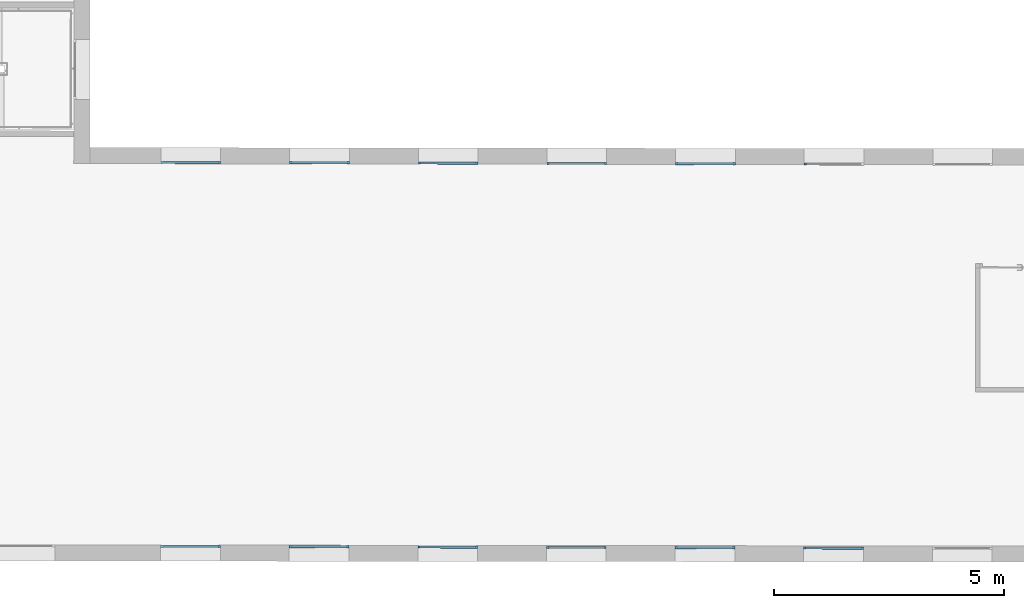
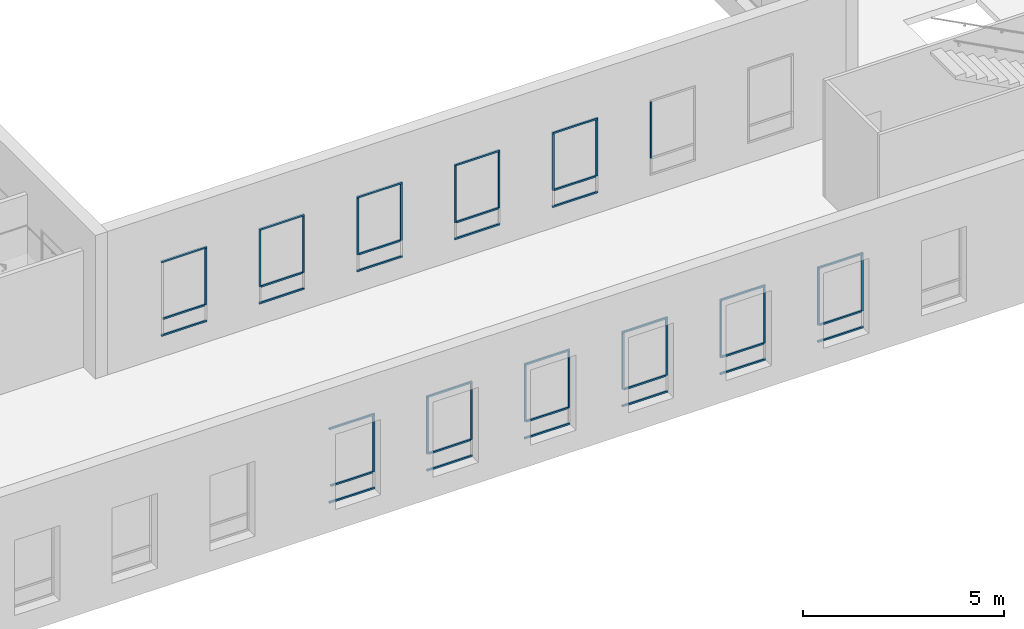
# One storey, part 3 of 35: 54 members, 12 elements without a shape of their own.
"""IFC2X3 building model written with IfcOpenShell, lengths in metres."""

import ifcopenshell
import ifcopenshell.guid

model = None  # the IFC model being written
_history = None  # IfcOwnerHistory: only IFC2X3 demands one
_inside = {}  # id of a spatial element -> (the spatial element, [elements in it])
_under = {}  # id of a project, library or spatial element -> (it, [spatial elements below it])
_declared = {}  # id of a project -> (the project, [libraries it declares])
_typed = {}  # id of a type object -> (the type object, [elements of that type])
_made_of = {}  # id of a material, layer set ... -> (it, [elements and type objects made of it])


def new_model(schema):
    """Start an empty IFC model of exactly this schema.

    Asked for "IFC4X3", IfcOpenShell would pick the latest addendum, in which some entities
    have other attributes; the version numbers below select the first issue.
    IFC2X3 requires an IfcOwnerHistory on every rooted entity: one is made here for all.
    """
    global model, _history
    if schema == "IFC4X3":
        model = ifcopenshell.file(schema_version=(4, 3, 0, 0))
    else:
        model = ifcopenshell.file(schema=schema)
    _inside.clear()
    _under.clear()
    _declared.clear()
    _typed.clear()
    _made_of.clear()
    _history = None
    if model.schema == "IFC2X3":
        org = make("IfcOrganization", Name="unknown")
        user = make(
            "IfcPersonAndOrganization",
            ThePerson=make("IfcPerson", FamilyName="unknown"),
            TheOrganization=org,
        )
        app = make(
            "IfcApplication",
            ApplicationDeveloper=org,
            Version="unknown",
            ApplicationFullName="unknown",
            ApplicationIdentifier="unknown",
        )
        _history = make(
            "IfcOwnerHistory",
            OwningUser=user,
            OwningApplication=app,
            ChangeAction="ADDED",
            CreationDate=0,
        )
    return model


def make(cls, **values):
    """One entity of the class cls with the attributes given. An attribute that is None is left unset."""
    return model.create_entity(
        cls, **{name: value for name, value in values.items() if value is not None}
    )


def entity(cls, *values):
    """Any entity or typed value of the class cls, its attributes in the order of the schema. None: left unset."""
    e = model.create_entity(cls)
    for i, value in enumerate(values):
        if value is not None:
            e[i] = value
    return e


def rooted(cls, **values):
    """An entity with a GlobalId (a new one), such as an element, a storey or a relation."""
    return make(cls, GlobalId=ifcopenshell.guid.new(), OwnerHistory=_history, **values)


def si_unit(unit_type, name, prefix=None):
    """IfcSIUnit, for example si_unit("LENGTHUNIT", "METRE", prefix="MILLI")."""
    return make("IfcSIUnit", UnitType=unit_type, Prefix=prefix, Name=name)


def converted_unit(unit_type, name, factor, base, dimensions=None, offset=None):
    """IfcConversionBasedUnit, such as the inch: factor (a typed value) times the base unit."""
    return make(
        "IfcConversionBasedUnit"
        if offset is None
        else "IfcConversionBasedUnitWithOffset",
        ConversionOffset=offset,
        Dimensions=None
        if dimensions is None
        else entity("IfcDimensionalExponents", *dimensions),
        UnitType=unit_type,
        Name=name,
        ConversionFactor=make(
            "IfcMeasureWithUnit", ValueComponent=factor, UnitComponent=base
        ),
    )


def derived_unit(unit_type, elements):
    """IfcDerivedUnit: a product of units, each with its exponent."""
    return make(
        "IfcDerivedUnit",
        Elements=[
            make("IfcDerivedUnitElement", Unit=unit, Exponent=power)
            for unit, power in elements
        ],
        UnitType=unit_type,
    )


def assignment(units):
    """IfcUnitAssignment: the units of a project."""
    return None if units is None else make("IfcUnitAssignment", Units=units)


def point(xyz):
    """IfcCartesianPoint."""
    return None if xyz is None else make("IfcCartesianPoint", Coordinates=xyz)


def direction(xyz):
    """IfcDirection."""
    return None if xyz is None else make("IfcDirection", DirectionRatios=xyz)


def frame(location, z_axis=None, x_axis=None):
    """IfcAxis2Placement3D, a coordinate frame: its origin and axes. An axis left out is left unset."""
    return make(
        "IfcAxis2Placement3D",
        Location=point(location),
        Axis=direction(z_axis),
        RefDirection=direction(x_axis),
    )


def frame_2d(location, x_axis=None):
    """IfcAxis2Placement2D, a coordinate frame in the plane: its origin and x axis."""
    return make(
        "IfcAxis2Placement2D", Location=point(location), RefDirection=direction(x_axis)
    )


def origin():
    """The frame at (0, 0, 0) with its axes left unset."""
    return frame((0.0, 0.0, 0.0))


def origin_2d_with_axis():
    """The frame at (0, 0) in the plane with the x axis (1, 0) written out."""
    return frame_2d((0.0, 0.0), x_axis=(1.0, 0.0))


def place(relative_to, where):
    """IfcLocalPlacement: puts the frame where relative to a parent placement (None: the world)."""
    return make(
        "IfcLocalPlacement", PlacementRelTo=relative_to, RelativePlacement=where
    )


def context(
    kind, dimensions, precision=None, world=None, true_north=None, identifier=None
):
    """IfcGeometricRepresentationContext, for example the 3D "Model" context."""
    return make(
        "IfcGeometricRepresentationContext",
        ContextIdentifier=identifier,
        ContextType=kind,
        CoordinateSpaceDimension=dimensions,
        Precision=precision,
        WorldCoordinateSystem=world,
        TrueNorth=true_north,
    )


def subcontext(parent, identifier, kind, view, scale=None):
    """IfcGeometricRepresentationSubContext, for example "Body" below "Model"."""
    return make(
        "IfcGeometricRepresentationSubContext",
        ContextIdentifier=identifier,
        ContextType=kind,
        ParentContext=parent,
        TargetScale=scale,
        TargetView=view,
    )


def project(units=None, contexts=None):
    """IfcProject with its units and contexts."""
    return rooted(
        "IfcProject",
        Name="project",
        RepresentationContexts=contexts,
        UnitsInContext=assignment(units),
    )


def spatial(cls, under=None, at=None, **own):
    """A site, building, storey or space (cls), placed at a placement, below another one or the project."""
    s = rooted(cls, ObjectPlacement=at, **own)
    if under is not None:
        _under.setdefault(under.id(), (under, []))[1].append(s)
    return s


def profile(cls, at=None, kind="AREA", **sizes):
    """A parametric profile (cls). Its sizes go by their IFC names, for example OverallWidth=200.0."""
    return make(cls, ProfileType=kind, Position=at, **sizes)


def rectangle(**sizes):
    """IfcRectangleProfileDef."""
    return profile("IfcRectangleProfileDef", **sizes)


def extrude(swept, where, along, depth):
    """IfcExtrudedAreaSolid: the profile swept, set in the frame where, extruded along a direction by depth."""
    return make(
        "IfcExtrudedAreaSolid",
        SweptArea=swept,
        Position=where,
        ExtrudedDirection=direction(along),
        Depth=depth,
    )


def shape(context_of_items, identifier, shape_type, items):
    """IfcShapeRepresentation: the items that make up one representation, for example the "Body"."""
    return make(
        "IfcShapeRepresentation",
        ContextOfItems=context_of_items,
        RepresentationIdentifier=identifier,
        RepresentationType=shape_type,
        Items=items,
    )


def source(mapping_origin, context_of_items, identifier, shape_type, items):
    """IfcRepresentationMap: a shape defined once, which mapped items show again and again."""
    return make(
        "IfcRepresentationMap",
        MappingOrigin=mapping_origin,
        MappedRepresentation=shape(context_of_items, identifier, shape_type, items),
    )


def transform(
    local_origin,
    x_axis=None,
    y_axis=None,
    z_axis=None,
    scale=None,
    scale2=None,
    scale3=None,
    uniform=True,
):
    """IfcCartesianTransformationOperator3D, or its non-uniform kind. x_axis, y_axis, z_axis: its Axis1, 2, 3."""
    if uniform:
        return make(
            "IfcCartesianTransformationOperator3D",
            Axis1=direction(x_axis),
            Axis2=direction(y_axis),
            LocalOrigin=point(local_origin),
            Scale=scale,
            Axis3=direction(z_axis),
        )
    return make(
        "IfcCartesianTransformationOperator3DnonUniform",
        Axis1=direction(x_axis),
        Axis2=direction(y_axis),
        LocalOrigin=point(local_origin),
        Scale=scale,
        Axis3=direction(z_axis),
        Scale2=scale2,
        Scale3=scale3,
    )


def mapped(mapping_source, mapping_target):
    """IfcMappedItem: shows the shape of a source again, moved by a transform."""
    return make(
        "IfcMappedItem", MappingSource=mapping_source, MappingTarget=mapping_target
    )


def material(Name=None, Category=None):
    """IfcMaterial."""
    return make("IfcMaterial", Name=Name, Category=Category)


def made_of(thing, what):
    """Note that an element or type object is made of a material, layer set ...; save() writes the relation."""
    if what is not None:
        _made_of.setdefault(what.id(), (what, []))[1].append(thing)
    return thing


def type_object(cls, material=None, **own):
    """A type object (cls), such as IfcWallType, which elements share."""
    return made_of(rooted(cls, **own), material)


def type_shapes(of_type, sources):
    """Give a type object the sources (RepresentationMaps) that its elements show as mapped items."""
    of_type.RepresentationMaps = sources


def element(
    cls,
    number,
    at=None,
    inside=None,
    cuts=None,
    type_object=None,
    material=None,
    context=None,
    identifier="Body",
    shape_type=None,
    held_by="IfcProductDefinitionShape",
    body=None,
    shapes=None,
    **own,
):
    """One element of the class cls, such as IfcWall. Its Tag is "e" and its number.

    at: its placement. inside: the storey or other place that contains it. cuts: it is an
    opening in that element (IfcRelVoidsElement). A single representation is given by context,
    identifier, shape_type and body (its items); several are given by shapes. held_by: the class
    of the entity that holds the representations. save() writes the other relations.
    """
    e = rooted(cls, Tag="e%d" % number, ObjectPlacement=at, **own)
    if body is not None:
        shapes = [shape(context, identifier, shape_type, body)]
    if shapes is not None:
        e.Representation = make(held_by, Representations=shapes)
    if inside is not None:
        _inside.setdefault(inside.id(), (inside, []))[1].append(e)
    if cuts is not None:
        rooted(
            "IfcRelVoidsElement", RelatingBuildingElement=cuts, RelatedOpeningElement=e
        )
    if type_object is not None:
        _typed.setdefault(type_object.id(), (type_object, []))[1].append(e)
    return made_of(e, material)


def aggregate(whole, parts):
    """IfcRelAggregates: a whole, such as a stair, and the parts it consists of."""
    return rooted("IfcRelAggregates", RelatingObject=whole, RelatedObjects=parts)


def save(model, path):
    """Write the relations noted so far, then the file.

    IfcRelAggregates (storeys below a building ...), IfcRelContainedInSpatialStructure (elements
    in a storey), IfcRelDefinesByType, IfcRelAssociatesMaterial and IfcRelDeclares: one each for
    every whole, place, type object, material and project.
    """
    for whole, parts in _under.values():
        aggregate(whole, parts)
    for where, things in _inside.values():
        rooted(
            "IfcRelContainedInSpatialStructure",
            RelatedElements=things,
            RelatingStructure=where,
        )
    for kind, things in _typed.values():
        rooted("IfcRelDefinesByType", RelatedObjects=things, RelatingType=kind)
    for what, things in _made_of.values():
        rooted("IfcRelAssociatesMaterial", RelatedObjects=things, RelatingMaterial=what)
    for by, libraries in _declared.values():
        rooted("IfcRelDeclares", RelatingContext=by, RelatedDefinitions=libraries)
    model.write(path)


model = new_model("IFC2X3")

# Units and contexts
model_context = context("Model", 3, precision=1e-05, world=origin(), true_north=direction((6.123233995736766e-17, 1.0)))
body_context = subcontext(model_context, "Body", "Model", "MODEL_VIEW")
ifc_project = project(units=[si_unit("LENGTHUNIT", "METRE"), si_unit("AREAUNIT", "SQUARE_METRE"), converted_unit("PLANEANGLEUNIT", "DEGREE", entity("IfcPlaneAngleMeasure", 0.017453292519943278), si_unit("PLANEANGLEUNIT", "RADIAN"), dimensions=[0, 0, 0, 0, 0, 0, 0]), derived_unit("THERMALTRANSMITTANCEUNIT", [(si_unit("MASSUNIT", "GRAM", prefix="KILO"), 1), (si_unit("THERMODYNAMICTEMPERATUREUNIT", "KELVIN"), -1), (si_unit("TIMEUNIT", "SECOND"), -3)])], contexts=[model_context])

# Site, building, storey
site_placement = place(None, frame((1253.6752467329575, 2072.143113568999, 91.49999999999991), z_axis=(0.0, 0.0, 1.0), x_axis=(0.7237211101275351, 0.6900925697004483, 0.0)))
site = spatial("IfcSite", under=ifc_project, at=site_placement, Name="Surface", CompositionType="ELEMENT")
building_placement = place(site_placement, origin())
building = spatial("IfcBuilding", under=site, at=building_placement, CompositionType="ELEMENT")
storey_placement = place(building_placement, frame((0.0, 0.0, 3.549999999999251)))
storey = spatial("IfcBuildingStorey", under=building, at=storey_placement, Name="1-R+1", CompositionType="ELEMENT", Elevation=3.549999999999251)

# Curtain wall, member
curtain_wall_type = type_object("IfcCurtainWallType", Name="Mur-rideau:Menuiserie Ext 1F+1OB VERTIC", PredefinedType="NOTDEFINED")
curtain_wall_1_placement = place(storey_placement, frame((0.0, 0.0, -3.549999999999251)))
curtain_wall_1 = element("IfcCurtainWall", 1, at=curtain_wall_1_placement, inside=storey, type_object=curtain_wall_type, Name="Mur-rideau:Menuiserie Ext 1F+1OB VERTIC", ObjectType="Mur-rideau:Menuiserie Ext 1F+1OB VERTIC")
ifc_material = material(Name="OMD_Aluminium Men Ext")
member_type_1 = type_object("IfcMemberType", Name="Meneau rectangulaire:50x50", PredefinedType="MULLION", material=ifc_material)
shared_shape_1 = source(origin(), body_context, "Body", "SweptSolid", [
    extrude(rectangle(XDim=0.05, YDim=0.049999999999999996, at=origin_2d_with_axis()), frame((-0.025, 0.0, -1.2996959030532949), z_axis=(0.0, 0.0, 1.0), x_axis=(-1.0, 0.0, 0.0)), (0.0, 0.0, 1.0), 1.2996959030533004),
])
type_shapes(member_type_1, [shared_shape_1])
member_1_placement = place(curtain_wall_1_placement, frame((155.1994526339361, -6.247165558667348, 6.4499999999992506), z_axis=(-0.7228702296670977, 0.6909838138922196, 0.0), x_axis=(0.0, 0.0, 1.0)))
member_1 = element("IfcMember", 2, at=member_1_placement, type_object=member_type_1, material=ifc_material, Name="Meneau rectangulaire:50x50", ObjectType="Meneau rectangulaire:50x50", context=body_context, shape_type="MappedRepresentation", body=[
    mapped(shared_shape_1, transform((0.0, 0.0, 0.0), scale=1.0)),
])

curtain_wall_2_placement = place(storey_placement, frame((0.0, 0.0, -3.549999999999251)))
curtain_wall_2 = element("IfcCurtainWall", 3, at=curtain_wall_2_placement, inside=storey, type_object=curtain_wall_type, Name="Mur-rideau:Menuiserie Ext 1F+1OB VERTIC", ObjectType="Mur-rideau:Menuiserie Ext 1F+1OB VERTIC")
member_2_placement = place(curtain_wall_2_placement, frame((157.22083179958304, -8.184696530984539, 6.4499999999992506), z_axis=(-0.7228702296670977, 0.6909838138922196, 0.0), x_axis=(0.0, 0.0, 1.0)))
member_2 = element("IfcMember", 4, at=member_2_placement, type_object=member_type_1, material=ifc_material, Name="Meneau rectangulaire:50x50", ObjectType="Meneau rectangulaire:50x50", context=body_context, shape_type="MappedRepresentation", body=[
    mapped(shared_shape_1, transform((0.0, 0.0, 0.0), scale=1.0)),
])

curtain_wall_3_placement = place(storey_placement, frame((0.0, 0.0, -3.549999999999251)))
curtain_wall_3 = element("IfcCurtainWall", 5, at=curtain_wall_3_placement, inside=storey, type_object=curtain_wall_type, Name="Mur-rideau:Menuiserie Ext 1F+1OB VERTIC", ObjectType="Mur-rideau:Menuiserie Ext 1F+1OB VERTIC")
member_3_placement = place(curtain_wall_3_placement, frame((159.24221096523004, -10.12222750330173, 6.4499999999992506), z_axis=(-0.7228702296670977, 0.6909838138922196, 0.0), x_axis=(0.0, 0.0, 1.0)))
member_3 = element("IfcMember", 6, at=member_3_placement, type_object=member_type_1, material=ifc_material, Name="Meneau rectangulaire:50x50", ObjectType="Meneau rectangulaire:50x50", context=body_context, shape_type="MappedRepresentation", body=[
    mapped(shared_shape_1, transform((0.0, 0.0, 0.0), scale=1.0)),
])

curtain_wall_4_placement = place(storey_placement, frame((0.0, 0.0, -3.549999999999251)))
curtain_wall_4 = element("IfcCurtainWall", 7, at=curtain_wall_4_placement, inside=storey, type_object=curtain_wall_type, Name="Mur-rideau:Menuiserie Ext 1F+1OB VERTIC", ObjectType="Mur-rideau:Menuiserie Ext 1F+1OB VERTIC")
member_4_placement = place(curtain_wall_4_placement, frame((161.263590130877, -12.059758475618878, 6.4499999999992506), z_axis=(-0.7228702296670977, 0.6909838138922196, 0.0), x_axis=(0.0, 0.0, 1.0)))
member_4 = element("IfcMember", 8, at=member_4_placement, type_object=member_type_1, material=ifc_material, Name="Meneau rectangulaire:50x50", ObjectType="Meneau rectangulaire:50x50", context=body_context, shape_type="MappedRepresentation", body=[
    mapped(shared_shape_1, transform((0.0, 0.0, 0.0), scale=1.0)),
])

curtain_wall_5_placement = place(storey_placement, frame((0.0, 0.0, -3.549999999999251)))
curtain_wall_5 = element("IfcCurtainWall", 9, at=curtain_wall_5_placement, inside=storey, type_object=curtain_wall_type, Name="Mur-rideau:Menuiserie Ext 1F+1OB VERTIC", ObjectType="Mur-rideau:Menuiserie Ext 1F+1OB VERTIC")
member_5_placement = place(curtain_wall_5_placement, frame((163.28496929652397, -13.997289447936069, 6.4499999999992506), z_axis=(-0.7228702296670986, 0.6909838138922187, 0.0), x_axis=(0.0, 0.0, 1.0)))
member_5 = element("IfcMember", 10, at=member_5_placement, type_object=member_type_1, material=ifc_material, Name="Meneau rectangulaire:50x50", ObjectType="Meneau rectangulaire:50x50", context=body_context, shape_type="MappedRepresentation", body=[
    mapped(shared_shape_1, transform((0.0, 0.0, 0.0), scale=1.0)),
])

curtain_wall_6_placement = place(storey_placement, frame((0.0, 0.0, -3.549999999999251)))
curtain_wall_6 = element("IfcCurtainWall", 11, at=curtain_wall_6_placement, inside=storey, type_object=curtain_wall_type, Name="Mur-rideau:Menuiserie Ext 1F+1OB VERTIC", ObjectType="Mur-rideau:Menuiserie Ext 1F+1OB VERTIC")
member_6_placement = place(curtain_wall_6_placement, frame((165.30634846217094, -15.934820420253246, 6.4499999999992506), z_axis=(-0.7228702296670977, 0.6909838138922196, 0.0), x_axis=(0.0, 0.0, 1.0)))
member_6 = element("IfcMember", 12, at=member_6_placement, type_object=member_type_1, material=ifc_material, Name="Meneau rectangulaire:50x50", ObjectType="Meneau rectangulaire:50x50", context=body_context, shape_type="MappedRepresentation", body=[
    mapped(shared_shape_1, transform((0.0, 0.0, 0.0), scale=1.0)),
])

curtain_wall_7_placement = place(storey_placement, frame((0.0, 0.0, -3.549999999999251)))
curtain_wall_7 = element("IfcCurtainWall", 13, at=curtain_wall_7_placement, inside=storey, type_object=curtain_wall_type, Name="Mur-rideau:Menuiserie Ext 1F+1OB VERTIC", ObjectType="Mur-rideau:Menuiserie Ext 1F+1OB VERTIC")
member_7_placement = place(curtain_wall_7_placement, frame((160.97019545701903, -0.2053462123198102, 6.4499999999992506), z_axis=(-0.7228702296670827, 0.6909838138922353, 0.0), x_axis=(0.0, 0.0, 1.0)))
member_7 = element("IfcMember", 14, at=member_7_placement, type_object=member_type_1, material=ifc_material, Name="Meneau rectangulaire:50x50", ObjectType="Meneau rectangulaire:50x50", context=body_context, shape_type="MappedRepresentation", body=[
    mapped(shared_shape_1, transform((0.0, 0.0, 0.0), scale=1.0)),
])

curtain_wall_8_placement = place(storey_placement, frame((0.0, 0.0, -3.549999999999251)))
curtain_wall_8 = element("IfcCurtainWall", 15, at=curtain_wall_8_placement, inside=storey, type_object=curtain_wall_type, Name="Mur-rideau:Menuiserie Ext 1F+1OB VERTIC", ObjectType="Mur-rideau:Menuiserie Ext 1F+1OB VERTIC")
member_8_placement = place(curtain_wall_8_placement, frame((162.99675977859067, -2.1425170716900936, 6.4499999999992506), z_axis=(-0.7228702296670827, 0.6909838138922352, 0.0), x_axis=(0.0, 0.0, 1.0)))
member_8 = element("IfcMember", 16, at=member_8_placement, type_object=member_type_1, material=ifc_material, Name="Meneau rectangulaire:50x50", ObjectType="Meneau rectangulaire:50x50", context=body_context, shape_type="MappedRepresentation", body=[
    mapped(shared_shape_1, transform((0.0, 0.0, 0.0), scale=1.0)),
])

curtain_wall_9_placement = place(storey_placement, frame((0.0, 0.0, -3.549999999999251)))
curtain_wall_9 = element("IfcCurtainWall", 17, at=curtain_wall_9_placement, inside=storey, type_object=curtain_wall_type, Name="Mur-rideau:Menuiserie Ext 1F+1OB VERTIC", ObjectType="Mur-rideau:Menuiserie Ext 1F+1OB VERTIC")
member_9_placement = place(curtain_wall_9_placement, frame((165.0181408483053, -4.080049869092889, 6.4499999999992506), z_axis=(-0.7228702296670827, 0.6909838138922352, 0.0), x_axis=(0.0, 0.0, 1.0)))
member_9 = element("IfcMember", 18, at=member_9_placement, type_object=member_type_1, material=ifc_material, Name="Meneau rectangulaire:50x50", ObjectType="Meneau rectangulaire:50x50", context=body_context, shape_type="MappedRepresentation", body=[
    mapped(shared_shape_1, transform((0.0, 0.0, 0.0), scale=1.0)),
])

curtain_wall_10_placement = place(storey_placement, frame((0.0, 0.0, -3.549999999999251)))
curtain_wall_10 = element("IfcCurtainWall", 19, at=curtain_wall_10_placement, inside=storey, type_object=curtain_wall_type, Name="Mur-rideau:Menuiserie Ext 1F+1OB VERTIC", ObjectType="Mur-rideau:Menuiserie Ext 1F+1OB VERTIC")
member_10_placement = place(curtain_wall_10_placement, frame((167.03952191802, -6.0175826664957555, 6.4499999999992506), z_axis=(-0.7228702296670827, 0.6909838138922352, 0.0), x_axis=(0.0, 0.0, 1.0)))
member_10 = element("IfcMember", 20, at=member_10_placement, type_object=member_type_1, material=ifc_material, Name="Meneau rectangulaire:50x50", ObjectType="Meneau rectangulaire:50x50", context=body_context, shape_type="MappedRepresentation", body=[
    mapped(shared_shape_1, transform((0.0, 0.0, 0.0), scale=1.0)),
])

curtain_wall_11_placement = place(storey_placement, frame((0.0, 0.0, -3.549999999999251)))
curtain_wall_11 = element("IfcCurtainWall", 21, at=curtain_wall_11_placement, inside=storey, type_object=curtain_wall_type, Name="Mur-rideau:Menuiserie Ext 1F+1OB VERTIC", ObjectType="Mur-rideau:Menuiserie Ext 1F+1OB VERTIC")
member_11_placement = place(curtain_wall_11_placement, frame((169.06090298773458, -7.955115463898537, 6.4499999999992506), z_axis=(-0.7228702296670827, 0.6909838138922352, 0.0), x_axis=(0.0, 0.0, 1.0)))
member_11 = element("IfcMember", 22, at=member_11_placement, type_object=member_type_1, material=ifc_material, Name="Meneau rectangulaire:50x50", ObjectType="Meneau rectangulaire:50x50", context=body_context, shape_type="MappedRepresentation", body=[
    mapped(shared_shape_1, transform((0.0, 0.0, 0.0), scale=1.0)),
])

# Member
member_type_2 = type_object("IfcMemberType", Name="Meneau rectangulaire:50x50", PredefinedType="MULLION", material=ifc_material)
shared_shape_2 = source(origin(), body_context, "Body", "SweptSolid", [
    extrude(rectangle(XDim=0.05, YDim=0.05, at=origin_2d_with_axis()), frame((-0.025, 0.0, -1.2996959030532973), z_axis=(0.0, 0.0, 1.0), x_axis=(-1.0, 0.0, 0.0)), (0.0, 0.0, 1.0), 1.2996959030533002),
])
type_shapes(member_type_2, [shared_shape_2])
member_12_placement = place(curtain_wall_1_placement, frame((156.13896410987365, -7.145234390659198, 4.169999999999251), z_axis=(0.7228702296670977, -0.6909838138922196, 0.0), x_axis=(0.0, 0.0, -1.0)))
member_12 = element("IfcMember", 23, at=member_12_placement, type_object=member_type_2, material=ifc_material, Name="Meneau rectangulaire:50x50", ObjectType="Meneau rectangulaire:50x50", context=body_context, shape_type="MappedRepresentation", body=[
    mapped(shared_shape_2, transform((0.0, 0.0, 0.0), scale=1.0)),
])

member_13_placement = place(curtain_wall_2_placement, frame((158.16034327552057, -9.082765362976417, 4.169999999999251), z_axis=(0.7228702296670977, -0.6909838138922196, 0.0), x_axis=(0.0, 0.0, -1.0)))
member_13 = element("IfcMember", 24, at=member_13_placement, type_object=member_type_2, material=ifc_material, Name="Meneau rectangulaire:50x50", ObjectType="Meneau rectangulaire:50x50", context=body_context, shape_type="MappedRepresentation", body=[
    mapped(shared_shape_2, transform((0.0, 0.0, 0.0), scale=1.0)),
])

member_14_placement = place(curtain_wall_3_placement, frame((160.18172244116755, -11.02029633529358, 4.169999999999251), z_axis=(0.7228702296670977, -0.6909838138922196, 0.0), x_axis=(0.0, 0.0, -1.0)))
member_14 = element("IfcMember", 25, at=member_14_placement, type_object=member_type_2, material=ifc_material, Name="Meneau rectangulaire:50x50", ObjectType="Meneau rectangulaire:50x50", context=body_context, shape_type="MappedRepresentation", body=[
    mapped(shared_shape_2, transform((0.0, 0.0, 0.0), scale=1.0)),
])

member_15_placement = place(curtain_wall_4_placement, frame((162.2031016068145, -12.957827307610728, 4.169999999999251), z_axis=(0.7228702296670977, -0.6909838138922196, 0.0), x_axis=(0.0, 0.0, -1.0)))
member_15 = element("IfcMember", 26, at=member_15_placement, type_object=member_type_2, material=ifc_material, Name="Meneau rectangulaire:50x50", ObjectType="Meneau rectangulaire:50x50", context=body_context, shape_type="MappedRepresentation", body=[
    mapped(shared_shape_2, transform((0.0, 0.0, 0.0), scale=1.0)),
])

member_16_placement = place(curtain_wall_5_placement, frame((164.2244807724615, -14.895358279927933, 4.169999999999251), z_axis=(0.7228702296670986, -0.6909838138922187, 0.0), x_axis=(0.0, 0.0, -1.0)))
member_16 = element("IfcMember", 27, at=member_16_placement, type_object=member_type_2, material=ifc_material, Name="Meneau rectangulaire:50x50", ObjectType="Meneau rectangulaire:50x50", context=body_context, shape_type="MappedRepresentation", body=[
    mapped(shared_shape_2, transform((0.0, 0.0, 0.0), scale=1.0)),
])

member_17_placement = place(curtain_wall_6_placement, frame((166.24585993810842, -16.832889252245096, 4.169999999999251), z_axis=(0.7228702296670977, -0.6909838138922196, 0.0), x_axis=(0.0, 0.0, -1.0)))
member_17 = element("IfcMember", 28, at=member_17_placement, type_object=member_type_2, material=ifc_material, Name="Meneau rectangulaire:50x50", ObjectType="Meneau rectangulaire:50x50", context=body_context, shape_type="MappedRepresentation", body=[
    mapped(shared_shape_2, transform((0.0, 0.0, 0.0), scale=1.0)),
])

member_18_placement = place(curtain_wall_7_placement, frame((161.9097069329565, -1.1034150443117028, 4.169999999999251), z_axis=(0.7228702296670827, -0.6909838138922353, 0.0), x_axis=(0.0, 0.0, -1.0)))
member_18 = element("IfcMember", 29, at=member_18_placement, type_object=member_type_2, material=ifc_material, Name="Meneau rectangulaire:50x50", ObjectType="Meneau rectangulaire:50x50", context=body_context, shape_type="MappedRepresentation", body=[
    mapped(shared_shape_2, transform((0.0, 0.0, 0.0), scale=1.0)),
])

member_19_placement = place(curtain_wall_8_placement, frame((163.9362712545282, -3.0405859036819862, 4.169999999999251), z_axis=(0.7228702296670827, -0.6909838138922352, 0.0), x_axis=(0.0, 0.0, -1.0)))
member_19 = element("IfcMember", 30, at=member_19_placement, type_object=member_type_2, material=ifc_material, Name="Meneau rectangulaire:50x50", ObjectType="Meneau rectangulaire:50x50", context=body_context, shape_type="MappedRepresentation", body=[
    mapped(shared_shape_2, transform((0.0, 0.0, 0.0), scale=1.0)),
])

member_20_placement = place(curtain_wall_9_placement, frame((165.95765232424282, -4.978118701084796, 4.169999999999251), z_axis=(0.7228702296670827, -0.6909838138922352, 0.0), x_axis=(0.0, 0.0, -1.0)))
member_20 = element("IfcMember", 31, at=member_20_placement, type_object=member_type_2, material=ifc_material, Name="Meneau rectangulaire:50x50", ObjectType="Meneau rectangulaire:50x50", context=body_context, shape_type="MappedRepresentation", body=[
    mapped(shared_shape_2, transform((0.0, 0.0, 0.0), scale=1.0)),
])

member_21_placement = place(curtain_wall_10_placement, frame((167.9790333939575, -6.915651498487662, 4.169999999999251), z_axis=(0.7228702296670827, -0.6909838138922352, 0.0), x_axis=(0.0, 0.0, -1.0)))
member_21 = element("IfcMember", 32, at=member_21_placement, type_object=member_type_2, material=ifc_material, Name="Meneau rectangulaire:50x50", ObjectType="Meneau rectangulaire:50x50", context=body_context, shape_type="MappedRepresentation", body=[
    mapped(shared_shape_2, transform((0.0, 0.0, 0.0), scale=1.0)),
])

member_22_placement = place(curtain_wall_11_placement, frame((170.0004144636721, -8.853184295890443, 4.169999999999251), z_axis=(0.7228702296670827, -0.6909838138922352, 0.0), x_axis=(0.0, 0.0, -1.0)))
member_22 = element("IfcMember", 33, at=member_22_placement, type_object=member_type_2, material=ifc_material, Name="Meneau rectangulaire:50x50", ObjectType="Meneau rectangulaire:50x50", context=body_context, shape_type="MappedRepresentation", body=[
    mapped(shared_shape_2, transform((0.0, 0.0, 0.0), scale=1.0)),
])

member_type_3 = type_object("IfcMemberType", Name="Meneau rectangulaire:50x50", PredefinedType="MULLION", material=ifc_material)
shared_shape_3 = source(origin(), body_context, "Body", "SweptSolid", [
    extrude(rectangle(XDim=0.05, YDim=0.049999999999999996, at=origin_2d_with_axis()), frame((-0.025, 0.0, -1.7099999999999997), z_axis=(0.0, 0.0, 1.0), x_axis=(-1.0, 0.0, 0.0)), (0.0, 0.0, 1.0), 1.7099999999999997),
])
type_shapes(member_type_3, [shared_shape_3])
member_23_placement = place(curtain_wall_1_placement, frame((156.13896410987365, -7.145234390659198, 6.399999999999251), z_axis=(0.0, 0.0, 1.0), x_axis=(0.7228702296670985, -0.6909838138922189, 0.0)))
member_23 = element("IfcMember", 34, at=member_23_placement, type_object=member_type_3, material=ifc_material, Name="Meneau rectangulaire:50x50", ObjectType="Meneau rectangulaire:50x50", context=body_context, shape_type="MappedRepresentation", body=[
    mapped(shared_shape_3, transform((0.0, 0.0, 0.0), scale=1.0)),
])

member_24_placement = place(curtain_wall_2_placement, frame((158.16034327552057, -9.082765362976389, 6.399999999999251), z_axis=(0.0, 0.0, 1.0), x_axis=(0.7228702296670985, -0.6909838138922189, 0.0)))
member_24 = element("IfcMember", 35, at=member_24_placement, type_object=member_type_3, material=ifc_material, Name="Meneau rectangulaire:50x50", ObjectType="Meneau rectangulaire:50x50", context=body_context, shape_type="MappedRepresentation", body=[
    mapped(shared_shape_3, transform((0.0, 0.0, 0.0), scale=1.0)),
])

member_25_placement = place(curtain_wall_3_placement, frame((160.18172244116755, -11.020296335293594, 6.399999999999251), z_axis=(0.0, 0.0, 1.0), x_axis=(0.7228702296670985, -0.6909838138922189, 0.0)))
member_25 = element("IfcMember", 36, at=member_25_placement, type_object=member_type_3, material=ifc_material, Name="Meneau rectangulaire:50x50", ObjectType="Meneau rectangulaire:50x50", context=body_context, shape_type="MappedRepresentation", body=[
    mapped(shared_shape_3, transform((0.0, 0.0, 0.0), scale=1.0)),
])

member_26_placement = place(curtain_wall_4_placement, frame((162.2031016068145, -12.957827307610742, 6.399999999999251), z_axis=(0.0, 0.0, 1.0), x_axis=(0.7228702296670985, -0.6909838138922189, 0.0)))
member_26 = element("IfcMember", 37, at=member_26_placement, type_object=member_type_3, material=ifc_material, Name="Meneau rectangulaire:50x50", ObjectType="Meneau rectangulaire:50x50", context=body_context, shape_type="MappedRepresentation", body=[
    mapped(shared_shape_3, transform((0.0, 0.0, 0.0), scale=1.0)),
])

member_27_placement = place(curtain_wall_5_placement, frame((164.22448077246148, -14.895358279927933, 6.399999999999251), z_axis=(0.0, 0.0, 1.0), x_axis=(0.7228702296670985, -0.6909838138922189, 0.0)))
member_27 = element("IfcMember", 38, at=member_27_placement, type_object=member_type_3, material=ifc_material, Name="Meneau rectangulaire:50x50", ObjectType="Meneau rectangulaire:50x50", context=body_context, shape_type="MappedRepresentation", body=[
    mapped(shared_shape_3, transform((0.0, 0.0, 0.0), scale=1.0)),
])

member_28_placement = place(curtain_wall_6_placement, frame((166.24585993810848, -16.832889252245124, 6.399999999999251), z_axis=(0.0, 0.0, 1.0), x_axis=(0.7228702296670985, -0.6909838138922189, 0.0)))
member_28 = element("IfcMember", 39, at=member_28_placement, type_object=member_type_3, material=ifc_material, Name="Meneau rectangulaire:50x50", ObjectType="Meneau rectangulaire:50x50", context=body_context, shape_type="MappedRepresentation", body=[
    mapped(shared_shape_3, transform((0.0, 0.0, 0.0), scale=1.0)),
])

member_29_placement = place(curtain_wall_7_placement, frame((161.9097069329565, -1.1034150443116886, 6.399999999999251), z_axis=(0.0, 0.0, 1.0), x_axis=(0.7228702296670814, -0.6909838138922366, 0.0)))
member_29 = element("IfcMember", 40, at=member_29_placement, type_object=member_type_3, material=ifc_material, Name="Meneau rectangulaire:50x50", ObjectType="Meneau rectangulaire:50x50", context=body_context, shape_type="MappedRepresentation", body=[
    mapped(shared_shape_3, transform((0.0, 0.0, 0.0), scale=1.0)),
])

member_30_placement = place(curtain_wall_8_placement, frame((163.9362712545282, -3.0405859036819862, 6.399999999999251), z_axis=(0.0, 0.0, 1.0), x_axis=(0.7228702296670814, -0.6909838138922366, 0.0)))
member_30 = element("IfcMember", 41, at=member_30_placement, type_object=member_type_3, material=ifc_material, Name="Meneau rectangulaire:50x50", ObjectType="Meneau rectangulaire:50x50", context=body_context, shape_type="MappedRepresentation", body=[
    mapped(shared_shape_3, transform((0.0, 0.0, 0.0), scale=1.0)),
])

member_31_placement = place(curtain_wall_9_placement, frame((165.95765232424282, -4.978118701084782, 6.399999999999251), z_axis=(0.0, 0.0, 1.0), x_axis=(0.7228702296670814, -0.6909838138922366, 0.0)))
member_31 = element("IfcMember", 42, at=member_31_placement, type_object=member_type_3, material=ifc_material, Name="Meneau rectangulaire:50x50", ObjectType="Meneau rectangulaire:50x50", context=body_context, shape_type="MappedRepresentation", body=[
    mapped(shared_shape_3, transform((0.0, 0.0, 0.0), scale=1.0)),
])

member_32_placement = place(curtain_wall_10_placement, frame((167.97903339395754, -6.915651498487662, 6.399999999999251), z_axis=(0.0, 0.0, 1.0), x_axis=(0.7228702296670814, -0.6909838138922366, 0.0)))
member_32 = element("IfcMember", 43, at=member_32_placement, type_object=member_type_3, material=ifc_material, Name="Meneau rectangulaire:50x50", ObjectType="Meneau rectangulaire:50x50", context=body_context, shape_type="MappedRepresentation", body=[
    mapped(shared_shape_3, transform((0.0, 0.0, 0.0), scale=1.0)),
])

member_33_placement = place(curtain_wall_11_placement, frame((170.0004144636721, -8.85318429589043, 6.399999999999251), z_axis=(0.0, 0.0, 1.0), x_axis=(0.7228702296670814, -0.6909838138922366, 0.0)))
member_33 = element("IfcMember", 44, at=member_33_placement, type_object=member_type_3, material=ifc_material, Name="Meneau rectangulaire:50x50", ObjectType="Meneau rectangulaire:50x50", context=body_context, shape_type="MappedRepresentation", body=[
    mapped(shared_shape_3, transform((0.0, 0.0, 0.0), scale=1.0)),
])

member_type_4 = type_object("IfcMemberType", Name="Meneau rectangulaire:50x50", PredefinedType="MULLION", material=ifc_material)
shared_shape_4 = source(origin(), body_context, "Body", "SweptSolid", [
    extrude(rectangle(XDim=0.05, YDim=0.049999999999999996, at=origin_2d_with_axis()), frame((-0.025, 0.0, -1.7099999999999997), z_axis=(0.0, 0.0, 1.0), x_axis=(-1.0, 0.0, 0.0)), (0.0, 0.0, 1.0), 1.7099999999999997),
])
type_shapes(member_type_4, [shared_shape_4])
member_34_placement = place(curtain_wall_2_placement, frame((157.2208317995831, -8.184696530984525, 4.689999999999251), z_axis=(0.0, 0.0, -1.0), x_axis=(-0.7228702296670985, 0.6909838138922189, 0.0)))
member_34 = element("IfcMember", 45, at=member_34_placement, type_object=member_type_4, material=ifc_material, Name="Meneau rectangulaire:50x50", ObjectType="Meneau rectangulaire:50x50", context=body_context, shape_type="MappedRepresentation", body=[
    mapped(shared_shape_4, transform((0.0, 0.0, 0.0), scale=1.0)),
])

member_35_placement = place(curtain_wall_3_placement, frame((159.24221096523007, -10.122227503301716, 4.689999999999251), z_axis=(0.0, 0.0, -1.0), x_axis=(-0.7228702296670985, 0.6909838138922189, 0.0)))
member_35 = element("IfcMember", 46, at=member_35_placement, type_object=member_type_4, material=ifc_material, Name="Meneau rectangulaire:50x50", ObjectType="Meneau rectangulaire:50x50", context=body_context, shape_type="MappedRepresentation", body=[
    mapped(shared_shape_4, transform((0.0, 0.0, 0.0), scale=1.0)),
])

member_36_placement = place(curtain_wall_4_placement, frame((161.263590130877, -12.059758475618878, 4.689999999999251), z_axis=(0.0, 0.0, -1.0), x_axis=(-0.7228702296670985, 0.6909838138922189, 0.0)))
member_36 = element("IfcMember", 47, at=member_36_placement, type_object=member_type_4, material=ifc_material, Name="Meneau rectangulaire:50x50", ObjectType="Meneau rectangulaire:50x50", context=body_context, shape_type="MappedRepresentation", body=[
    mapped(shared_shape_4, transform((0.0, 0.0, 0.0), scale=1.0)),
])

member_37_placement = place(curtain_wall_5_placement, frame((163.28496929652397, -13.997289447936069, 4.689999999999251), z_axis=(0.0, 0.0, -1.0), x_axis=(-0.7228702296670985, 0.6909838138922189, 0.0)))
member_37 = element("IfcMember", 48, at=member_37_placement, type_object=member_type_4, material=ifc_material, Name="Meneau rectangulaire:50x50", ObjectType="Meneau rectangulaire:50x50", context=body_context, shape_type="MappedRepresentation", body=[
    mapped(shared_shape_4, transform((0.0, 0.0, 0.0), scale=1.0)),
])

member_38_placement = place(curtain_wall_6_placement, frame((165.30634846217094, -15.934820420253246, 4.689999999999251), z_axis=(0.0, 0.0, -1.0), x_axis=(-0.7228702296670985, 0.6909838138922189, 0.0)))
member_38 = element("IfcMember", 49, at=member_38_placement, type_object=member_type_4, material=ifc_material, Name="Meneau rectangulaire:50x50", ObjectType="Meneau rectangulaire:50x50", context=body_context, shape_type="MappedRepresentation", body=[
    mapped(shared_shape_4, transform((0.0, 0.0, 0.0), scale=1.0)),
])

member_39_placement = place(curtain_wall_8_placement, frame((162.99675977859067, -2.1425170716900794, 4.689999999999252), z_axis=(0.0, 0.0, -1.0), x_axis=(-0.7228702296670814, 0.6909838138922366, 0.0)))
member_39 = element("IfcMember", 50, at=member_39_placement, type_object=member_type_4, material=ifc_material, Name="Meneau rectangulaire:50x50", ObjectType="Meneau rectangulaire:50x50", context=body_context, shape_type="MappedRepresentation", body=[
    mapped(shared_shape_4, transform((0.0, 0.0, 0.0), scale=1.0)),
])

member_40_placement = place(curtain_wall_9_placement, frame((165.01814084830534, -4.080049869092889, 4.689999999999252), z_axis=(0.0, 0.0, -1.0), x_axis=(-0.7228702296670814, 0.6909838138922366, 0.0)))
member_40 = element("IfcMember", 51, at=member_40_placement, type_object=member_type_4, material=ifc_material, Name="Meneau rectangulaire:50x50", ObjectType="Meneau rectangulaire:50x50", context=body_context, shape_type="MappedRepresentation", body=[
    mapped(shared_shape_4, transform((0.0, 0.0, 0.0), scale=1.0)),
])

member_41_placement = place(curtain_wall_10_placement, frame((167.03952191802, -6.01758266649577, 4.689999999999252), z_axis=(0.0, 0.0, -1.0), x_axis=(-0.7228702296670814, 0.6909838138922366, 0.0)))
member_41 = element("IfcMember", 52, at=member_41_placement, type_object=member_type_4, material=ifc_material, Name="Meneau rectangulaire:50x50", ObjectType="Meneau rectangulaire:50x50", context=body_context, shape_type="MappedRepresentation", body=[
    mapped(shared_shape_4, transform((0.0, 0.0, 0.0), scale=1.0)),
])

member_42_placement = place(curtain_wall_11_placement, frame((169.0609029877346, -7.955115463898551, 4.689999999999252), z_axis=(0.0, 0.0, -1.0), x_axis=(-0.7228702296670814, 0.6909838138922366, 0.0)))
member_42 = element("IfcMember", 53, at=member_42_placement, type_object=member_type_4, material=ifc_material, Name="Meneau rectangulaire:50x50", ObjectType="Meneau rectangulaire:50x50", context=body_context, shape_type="MappedRepresentation", body=[
    mapped(shared_shape_4, transform((0.0, 0.0, 0.0), scale=1.0)),
])

# Curtain wall, member
curtain_wall_12_placement = place(storey_placement, frame((0.0, 0.0, -3.549999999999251)))
curtain_wall_12 = element("IfcCurtainWall", 54, at=curtain_wall_12_placement, inside=storey, type_object=curtain_wall_type, Name="Mur-rideau:Menuiserie Ext 1F+1OB VERTIC", ObjectType="Mur-rideau:Menuiserie Ext 1F+1OB VERTIC")
member_43_placement = place(curtain_wall_12_placement, frame((171.08228405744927, -9.892648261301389, 4.689999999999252), z_axis=(0.0, 0.0, -1.0), x_axis=(-0.7228702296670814, 0.6909838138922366, 0.0)))
member_43 = element("IfcMember", 55, at=member_43_placement, type_object=member_type_4, material=ifc_material, Name="Meneau rectangulaire:50x50", ObjectType="Meneau rectangulaire:50x50", context=body_context, shape_type="MappedRepresentation", body=[
    mapped(shared_shape_4, transform((0.0, 0.0, 0.0), scale=1.0)),
])
aggregate(curtain_wall_12, [member_43])

# Member
member_type_5 = type_object("IfcMemberType", Name="Meneau rectangulaire:50x50", PredefinedType="MULLION", material=ifc_material)
shared_shape_5 = source(origin(), body_context, "Body", "SweptSolid", [
    extrude(rectangle(XDim=0.05, YDim=0.05, at=frame_2d((0.0, -1.734723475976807e-18), x_axis=(1.0, 0.0))), frame((0.0, 0.0, -1.1996959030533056), z_axis=(0.0, 0.0, 1.0), x_axis=(-1.0, 0.0, 0.0)), (0.0, 0.0, 1.0), 1.1996959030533),
])
type_shapes(member_type_5, [shared_shape_5])
member_44_placement = place(curtain_wall_1_placement, frame((155.23559614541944, -6.281714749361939, 4.689999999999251), z_axis=(-0.7228702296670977, 0.6909838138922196, 0.0), x_axis=(0.0, 0.0, 1.0)))
member_44 = element("IfcMember", 56, at=member_44_placement, type_object=member_type_5, material=ifc_material, Name="Meneau rectangulaire:50x50", ObjectType="Meneau rectangulaire:50x50", context=body_context, shape_type="MappedRepresentation", body=[
    mapped(shared_shape_5, transform((0.0, 0.0, 0.0), scale=1.0)),
])

aggregate(curtain_wall_1, [member_1, member_12, member_23, member_44])

member_45_placement = place(curtain_wall_2_placement, frame((157.25697531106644, -8.219245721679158, 4.689999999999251), z_axis=(-0.7228702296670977, 0.6909838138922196, 0.0), x_axis=(0.0, 0.0, 1.0)))
member_45 = element("IfcMember", 57, at=member_45_placement, type_object=member_type_5, material=ifc_material, Name="Meneau rectangulaire:50x50", ObjectType="Meneau rectangulaire:50x50", context=body_context, shape_type="MappedRepresentation", body=[
    mapped(shared_shape_5, transform((0.0, 0.0, 0.0), scale=1.0)),
])

aggregate(curtain_wall_2, [member_2, member_13, member_24, member_34, member_45])

member_46_placement = place(curtain_wall_3_placement, frame((159.27835447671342, -10.156776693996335, 4.689999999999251), z_axis=(-0.7228702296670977, 0.6909838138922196, 0.0), x_axis=(0.0, 0.0, 1.0)))
member_46 = element("IfcMember", 58, at=member_46_placement, type_object=member_type_5, material=ifc_material, Name="Meneau rectangulaire:50x50", ObjectType="Meneau rectangulaire:50x50", context=body_context, shape_type="MappedRepresentation", body=[
    mapped(shared_shape_5, transform((0.0, 0.0, 0.0), scale=1.0)),
])

aggregate(curtain_wall_3, [member_3, member_14, member_25, member_35, member_46])

member_47_placement = place(curtain_wall_4_placement, frame((161.2997336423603, -12.094307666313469, 4.689999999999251), z_axis=(-0.7228702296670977, 0.6909838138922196, 0.0), x_axis=(0.0, 0.0, 1.0)))
member_47 = element("IfcMember", 59, at=member_47_placement, type_object=member_type_5, material=ifc_material, Name="Meneau rectangulaire:50x50", ObjectType="Meneau rectangulaire:50x50", context=body_context, shape_type="MappedRepresentation", body=[
    mapped(shared_shape_5, transform((0.0, 0.0, 0.0), scale=1.0)),
])

aggregate(curtain_wall_4, [member_4, member_15, member_26, member_36, member_47])

member_48_placement = place(curtain_wall_5_placement, frame((163.32111280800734, -14.031838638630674, 4.689999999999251), z_axis=(-0.7228702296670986, 0.6909838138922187, 0.0), x_axis=(0.0, 0.0, 1.0)))
member_48 = element("IfcMember", 60, at=member_48_placement, type_object=member_type_5, material=ifc_material, Name="Meneau rectangulaire:50x50", ObjectType="Meneau rectangulaire:50x50", context=body_context, shape_type="MappedRepresentation", body=[
    mapped(shared_shape_5, transform((0.0, 0.0, 0.0), scale=1.0)),
])

aggregate(curtain_wall_5, [member_5, member_16, member_27, member_37, member_48])

member_49_placement = place(curtain_wall_6_placement, frame((165.3424919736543, -15.969369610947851, 4.689999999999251), z_axis=(-0.7228702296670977, 0.6909838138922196, 0.0), x_axis=(0.0, 0.0, 1.0)))
member_49 = element("IfcMember", 61, at=member_49_placement, type_object=member_type_5, material=ifc_material, Name="Meneau rectangulaire:50x50", ObjectType="Meneau rectangulaire:50x50", context=body_context, shape_type="MappedRepresentation", body=[
    mapped(shared_shape_5, transform((0.0, 0.0, 0.0), scale=1.0)),
])

aggregate(curtain_wall_6, [member_6, member_17, member_28, member_38, member_49])

member_50_placement = place(curtain_wall_7_placement, frame((161.00633896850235, -0.23989540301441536, 4.689999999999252), z_axis=(-0.7228702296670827, 0.6909838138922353, 0.0), x_axis=(0.0, 0.0, 1.0)))
member_50 = element("IfcMember", 62, at=member_50_placement, type_object=member_type_5, material=ifc_material, Name="Meneau rectangulaire:50x50", ObjectType="Meneau rectangulaire:50x50", context=body_context, shape_type="MappedRepresentation", body=[
    mapped(shared_shape_5, transform((0.0, 0.0, 0.0), scale=1.0)),
])

aggregate(curtain_wall_7, [member_7, member_18, member_29, member_50])

member_51_placement = place(curtain_wall_8_placement, frame((163.03290329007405, -2.177066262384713, 4.689999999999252), z_axis=(-0.7228702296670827, 0.6909838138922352, 0.0), x_axis=(0.0, 0.0, 1.0)))
member_51 = element("IfcMember", 63, at=member_51_placement, type_object=member_type_5, material=ifc_material, Name="Meneau rectangulaire:50x50", ObjectType="Meneau rectangulaire:50x50", context=body_context, shape_type="MappedRepresentation", body=[
    mapped(shared_shape_5, transform((0.0, 0.0, 0.0), scale=1.0)),
])

aggregate(curtain_wall_8, [member_8, member_19, member_30, member_39, member_51])

member_52_placement = place(curtain_wall_9_placement, frame((165.05428435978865, -4.114599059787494, 4.689999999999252), z_axis=(-0.7228702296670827, 0.6909838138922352, 0.0), x_axis=(0.0, 0.0, 1.0)))
member_52 = element("IfcMember", 64, at=member_52_placement, type_object=member_type_5, material=ifc_material, Name="Meneau rectangulaire:50x50", ObjectType="Meneau rectangulaire:50x50", context=body_context, shape_type="MappedRepresentation", body=[
    mapped(shared_shape_5, transform((0.0, 0.0, 0.0), scale=1.0)),
])

aggregate(curtain_wall_9, [member_9, member_20, member_31, member_40, member_52])

member_53_placement = place(curtain_wall_10_placement, frame((167.07566542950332, -6.052131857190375, 4.689999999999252), z_axis=(-0.7228702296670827, 0.6909838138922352, 0.0), x_axis=(0.0, 0.0, 1.0)))
member_53 = element("IfcMember", 65, at=member_53_placement, type_object=member_type_5, material=ifc_material, Name="Meneau rectangulaire:50x50", ObjectType="Meneau rectangulaire:50x50", context=body_context, shape_type="MappedRepresentation", body=[
    mapped(shared_shape_5, transform((0.0, 0.0, 0.0), scale=1.0)),
])

aggregate(curtain_wall_10, [member_10, member_21, member_32, member_41, member_53])

member_54_placement = place(curtain_wall_11_placement, frame((169.09704649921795, -7.989664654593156, 4.689999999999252), z_axis=(-0.7228702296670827, 0.6909838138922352, 0.0), x_axis=(0.0, 0.0, 1.0)))
member_54 = element("IfcMember", 66, at=member_54_placement, type_object=member_type_5, material=ifc_material, Name="Meneau rectangulaire:50x50", ObjectType="Meneau rectangulaire:50x50", context=body_context, shape_type="MappedRepresentation", body=[
    mapped(shared_shape_5, transform((0.0, 0.0, 0.0), scale=1.0)),
])

aggregate(curtain_wall_11, [member_11, member_22, member_33, member_42, member_54])

save(model, "model.ifc")
